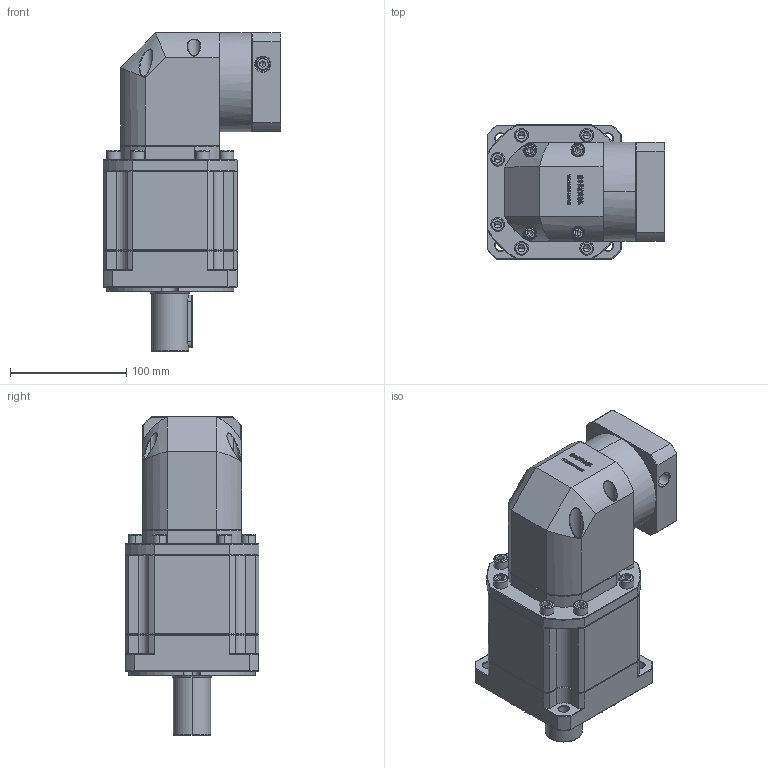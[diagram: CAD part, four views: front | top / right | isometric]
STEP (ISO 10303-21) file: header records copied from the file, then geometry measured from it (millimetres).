
FILE_DESCRIPTION (( 'STEP AP214' ), '1' );
FILE_NAME ('ZBR115A-D32-L3-19-70-90-M6.step', '2023-03-02T14:38:19', ( '' ), ( 'Microsoft' ), 'SwSTEP 2.0', 'SolidWorks 2016', '' );
FILE_SCHEMA (( 'AUTOMOTIVE_DESIGN' ));
Length unit declared in the file: millimetre
Products named in the file (1): ZBR115A-D32-L3-19-70-90-M6
Bounding box: 152.6 x 115 x 273.5 mm (x, y, z)
Volume: 2284799.2 mm3; surface area: 189791.3 mm2
Topology: 6 solids, 6 shells, 3197 faces, 8394 edges, 5348 vertices
Faces by surface type: plane 1701, bspline 633, cylinder 476, cone 373, torus 14
Entity records: 171173 total; most frequent: CARTESIAN_POINT 62348, ORIENTED_EDGE 16680, DIRECTION 12845, EDGE_CURVE 8340, VECTOR 5597, LINE 5597, VERTEX_POINT 5348, AXIS2_PLACEMENT_3D 3624
